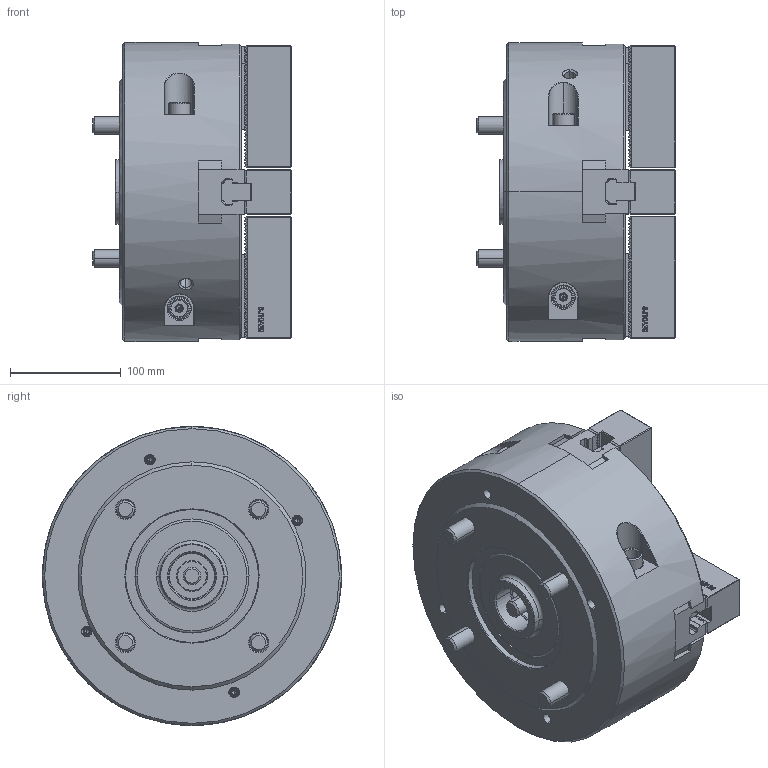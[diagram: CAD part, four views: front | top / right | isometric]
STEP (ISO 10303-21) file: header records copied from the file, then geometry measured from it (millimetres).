
FILE_DESCRIPTION (( 'STEP AP214' ), '1' );
FILE_NAME ('DT1_HW-10_OUTSIDE_VIEW_OC.STEP', '2026-01-26T02:56:40', ( '' ), ( '' ), 'SwSTEP 2.0', 'SolidWorks 2022', '' );
FILE_SCHEMA (( 'AUTOMOTIVE_DESIGN' ));
Length unit declared in the file: millimetre
Products named in the file (10): DT1_HW10_COVER^DT1_HW-10; DT1_HW10_BASE^DT1_HW-10; DT1_HW10_DN^DT1_HW-10; DT1_HW-10_OUTSIDE_VIEW_OC; DT1_HW10_M12x35^DT1_HW-10; DT1_HW10_SOFTJAW^DT1_HW-10; DT1_HW10_TNUT^DT1_HW-10; DT1_HW10_M16x115^DT1_HW-10; DT1_HW10_DRAWSCREW^DT1_HW-10; DT1_HW10_M5x10^DT1_HW-10
Assembly tree (28 placements, depth 2):
  DT1_HW-10_OUTSIDE_VIEW_OC
    DT1_HW10_SOFTJAW^DT1_HW-10  x4
    DT1_HW10_TNUT^DT1_HW-10  x4
    DT1_HW10_COVER^DT1_HW-10
    DT1_HW10_DRAWSCREW^DT1_HW-10
    DT1_HW10_DN^DT1_HW-10
    DT1_HW10_BASE^DT1_HW-10
    DT1_HW10_M16x115^DT1_HW-10  x4
    DT1_HW10_M12x35^DT1_HW-10  x8
    DT1_HW10_M5x10^DT1_HW-10  x4
Bounding box: 179 x 270 x 270 mm (x, y, z)
Volume: 6682243 mm3; surface area: 530845.2 mm2
Topology: 28 solids, 30 shells, 5074 faces, 14229 edges, 9325 vertices
Faces by surface type: plane 3042, cylinder 1112, cone 451, bspline 403, torus 58, sphere 8
Entity records: 114126 total; most frequent: CARTESIAN_POINT 35654, ORIENTED_EDGE 17400, DIRECTION 14435, EDGE_CURVE 8700, LINE 6245, VECTOR 6245, VERTEX_POINT 5712, AXIS2_PLACEMENT_3D 4095
